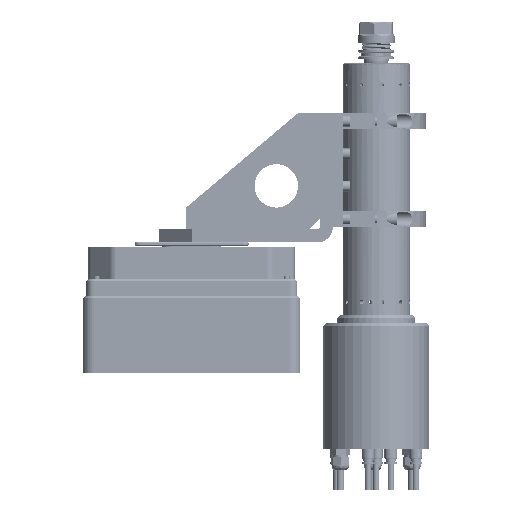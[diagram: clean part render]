
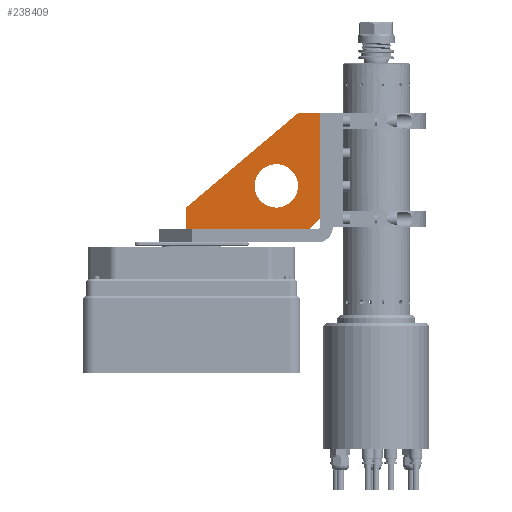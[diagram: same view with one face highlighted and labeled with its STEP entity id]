
A CAD part, left-side view. The second image highlights one B-rep face of the part: STEP entity #238409.
In plain terms, the highlighted planar face has unit normal (-1, 0, 0) as drawn and (0, 0, -1) by its records, which use the part's own axes.
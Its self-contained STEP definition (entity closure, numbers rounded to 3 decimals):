
#2808 = EDGE_CURVE ( 'NONE', #58158, #151190, #81047, .T. ) ;
#18928 = LINE ( 'NONE', #104338, #132269 ) ;
#23263 = EDGE_CURVE ( 'NONE', #192188, #45427, #131986, .T. ) ;
#28800 = LINE ( 'NONE', #219799, #104375 ) ;
#45427 = VERTEX_POINT ( 'NONE', #185424 ) ;
#58158 = VERTEX_POINT ( 'NONE', #183822 ) ;
#59548 = DIRECTION ( 'NONE',  ( 0.707, 0.707, 0. ) ) ;
#64904 = EDGE_CURVE ( 'NONE', #205328, #119624, #28800, .T. ) ;
#66484 = DIRECTION ( 'NONE',  ( -1., 0., 0. ) ) ;
#69487 = CARTESIAN_POINT ( 'NONE',  ( -40., 40., -5. ) ) ;
#70585 = ORIENTED_EDGE ( 'NONE', *, *, #23263, .F. ) ;
#72484 = VECTOR ( 'NONE', #115113, 1000. ) ;
#74632 = VECTOR ( 'NONE', #257189, 1000. ) ;
#77411 = CARTESIAN_POINT ( 'NONE',  ( -107., 0., -5. ) ) ;
#81047 = CIRCLE ( 'NONE', #134780, 20. ) ;
#81883 = LINE ( 'NONE', #187355, #121573 ) ;
#84250 = CARTESIAN_POINT ( 'NONE',  ( -40., 40., -5. ) ) ;
#90304 = VERTEX_POINT ( 'NONE', #203681 ) ;
#94025 = DIRECTION ( 'NONE',  ( 1., 0., 0. ) ) ;
#104338 = CARTESIAN_POINT ( 'NONE',  ( 0., 123., -5. ) ) ;
#104375 = VECTOR ( 'NONE', #176159, 1000. ) ;
#113773 = FACE_BOUND ( 'NONE', #160559, .T. ) ;
#114180 = ORIENTED_EDGE ( 'NONE', *, *, #225612, .F. ) ;
#115113 = DIRECTION ( 'NONE',  ( 1., 0., 0. ) ) ;
#115652 = CIRCLE ( 'NONE', #200987, 20. ) ;
#115770 = EDGE_CURVE ( 'NONE', #151190, #58158, #115652, .T. ) ;
#119624 = VERTEX_POINT ( 'NONE', #198478 ) ;
#121573 = VECTOR ( 'NONE', #59548, 1000. ) ;
#124784 = CARTESIAN_POINT ( 'NONE',  ( -20., 40., -5. ) ) ;
#131274 = DIRECTION ( 'NONE',  ( 1., 0., 0. ) ) ;
#131986 = LINE ( 'NONE', #171360, #74632 ) ;
#132269 = VECTOR ( 'NONE', #66484, 1000. ) ;
#134780 = AXIS2_PLACEMENT_3D ( 'NONE', #69487, #155072, #131274 ) ;
#136222 = FACE_OUTER_BOUND ( 'NONE', #198007, .T. ) ;
#144355 = ORIENTED_EDGE ( 'NONE', *, *, #213329, .F. ) ;
#145887 = ORIENTED_EDGE ( 'NONE', *, *, #64904, .F. ) ;
#151190 = VERTEX_POINT ( 'NONE', #124784 ) ;
#153283 = VERTEX_POINT ( 'NONE', #155107 ) ;
#153631 = ORIENTED_EDGE ( 'NONE', *, *, #2808, .T. ) ;
#154384 = EDGE_CURVE ( 'NONE', #45427, #205328, #18928, .T. ) ;
#155072 = DIRECTION ( 'NONE',  ( 0., 0., 1. ) ) ;
#155107 = CARTESIAN_POINT ( 'NONE',  ( -10., 0., -5. ) ) ;
#160559 = EDGE_LOOP ( 'NONE', ( #252121, #153631 ) ) ;
#162828 = LINE ( 'NONE', #266931, #72484 ) ;
#171360 = CARTESIAN_POINT ( 'NONE',  ( 0., 123., -5. ) ) ;
#172756 = CARTESIAN_POINT ( 'NONE',  ( 0., 10., -5. ) ) ;
#176159 = DIRECTION ( 'NONE',  ( -0.645, -0.764, 0. ) ) ;
#178419 = PLANE ( 'NONE',  #256389 ) ;
#183822 = CARTESIAN_POINT ( 'NONE',  ( -60., 40., -5. ) ) ;
#185424 = CARTESIAN_POINT ( 'NONE',  ( 0., 123., -5. ) ) ;
#187355 = CARTESIAN_POINT ( 'NONE',  ( -10., 0., -5. ) ) ;
#188378 = DIRECTION ( 'NONE',  ( 0., -1., 0. ) ) ;
#192188 = VERTEX_POINT ( 'NONE', #172756 ) ;
#198007 = EDGE_LOOP ( 'NONE', ( #145887, #214272, #70585, #114180, #198547, #144355 ) ) ;
#198478 = CARTESIAN_POINT ( 'NONE',  ( -107., 20., -5. ) ) ;
#198547 = ORIENTED_EDGE ( 'NONE', *, *, #206380, .F. ) ;
#199528 = CARTESIAN_POINT ( 'NONE',  ( 0., 0., -5. ) ) ;
#200987 = AXIS2_PLACEMENT_3D ( 'NONE', #84250, #231871, #253009 ) ;
#203681 = CARTESIAN_POINT ( 'NONE',  ( -107., 0., -5. ) ) ;
#205328 = VERTEX_POINT ( 'NONE', #206388 ) ;
#206380 = EDGE_CURVE ( 'NONE', #90304, #153283, #162828, .T. ) ;
#206388 = CARTESIAN_POINT ( 'NONE',  ( -20., 123., -5. ) ) ;
#213329 = EDGE_CURVE ( 'NONE', #119624, #90304, #272739, .T. ) ;
#214272 = ORIENTED_EDGE ( 'NONE', *, *, #154384, .F. ) ;
#219799 = CARTESIAN_POINT ( 'NONE',  ( -20., 123., -5. ) ) ;
#225612 = EDGE_CURVE ( 'NONE', #153283, #192188, #81883, .T. ) ;
#231871 = DIRECTION ( 'NONE',  ( 0., 0., 1. ) ) ;
#238409 = ADVANCED_FACE ( 'NONE', ( #113773, #136222 ), #178419, .F. ) ;
#239002 = DIRECTION ( 'NONE',  ( 0., 0., 1. ) ) ;
#252121 = ORIENTED_EDGE ( 'NONE', *, *, #115770, .T. ) ;
#253009 = DIRECTION ( 'NONE',  ( 1., 0., 0. ) ) ;
#256389 = AXIS2_PLACEMENT_3D ( 'NONE', #199528, #239002, #94025 ) ;
#257189 = DIRECTION ( 'NONE',  ( 0., 1., 0. ) ) ;
#264405 = VECTOR ( 'NONE', #188378, 1000. ) ;
#266931 = CARTESIAN_POINT ( 'NONE',  ( -15., 0., -5. ) ) ;
#272739 = LINE ( 'NONE', #77411, #264405 ) ;
